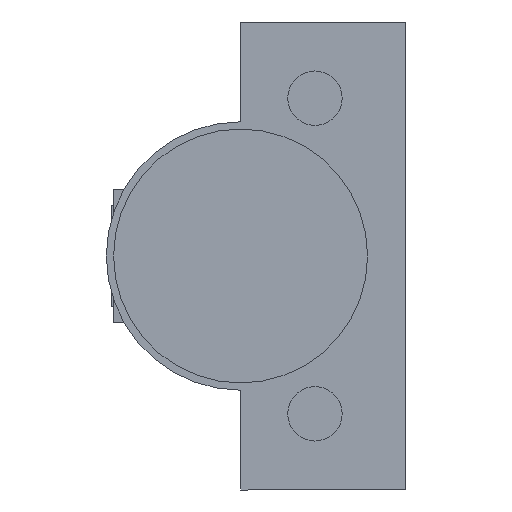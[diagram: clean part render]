
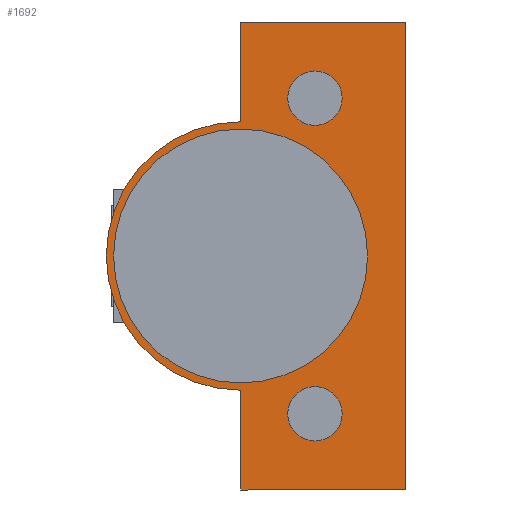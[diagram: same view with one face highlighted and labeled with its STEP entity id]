
A CAD part, front view. The second image highlights one B-rep face of the part: STEP entity #1692.
In plain terms, the highlighted planar face has unit normal (0, -1, 0).
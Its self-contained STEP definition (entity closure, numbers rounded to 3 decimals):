
#17 = CARTESIAN_POINT ( 'NONE',  ( 31.75, 0., 21.75 ) ) ;
#20 = DIRECTION ( 'NONE',  ( 0., 1., 0. ) ) ;
#26 = DIRECTION ( 'NONE',  ( -1., 0., 0. ) ) ;
#43 = CARTESIAN_POINT ( 'NONE',  ( 21.5, 0., 0. ) ) ;
#47 = DIRECTION ( 'NONE',  ( 0., 1., 0. ) ) ;
#48 = DIRECTION ( 'NONE',  ( -1., 0., 0. ) ) ;
#64 = DIRECTION ( 'NONE',  ( 0., -1., 0. ) ) ;
#65 = DIRECTION ( 'NONE',  ( -1., 0., 0. ) ) ;
#71 = CARTESIAN_POINT ( 'NONE',  ( 21.5, 0., 0. ) ) ;
#82 = DIRECTION ( 'NONE',  ( 1., 0., 0. ) ) ;
#84 = CARTESIAN_POINT ( 'NONE',  ( 44.25, 0., 32.25 ) ) ;
#96 = CARTESIAN_POINT ( 'NONE',  ( 31.75, 0., 21.75 ) ) ;
#133 = DIRECTION ( 'NONE',  ( 1., 0., 0. ) ) ;
#134 = CARTESIAN_POINT ( 'NONE',  ( 44.25, 0., -32.25 ) ) ;
#136 = DIRECTION ( 'NONE',  ( -1., 0., 0. ) ) ;
#137 = DIRECTION ( 'NONE',  ( 0., 1., 0. ) ) ;
#142 = DIRECTION ( 'NONE',  ( 0., -1., 0. ) ) ;
#143 = DIRECTION ( 'NONE',  ( -1., 0., 0. ) ) ;
#148 = CARTESIAN_POINT ( 'NONE',  ( 21.5, 0., 0. ) ) ;
#159 = DIRECTION ( 'NONE',  ( 0., 1., 0. ) ) ;
#160 = DIRECTION ( 'NONE',  ( -1., 0., 0. ) ) ;
#179 = CARTESIAN_POINT ( 'NONE',  ( 31.75, 0., -21.75 ) ) ;
#248 = CARTESIAN_POINT ( 'NONE',  ( 21.5, 0., 32.25 ) ) ;
#251 = CARTESIAN_POINT ( 'NONE',  ( 39., 0., 0. ) ) ;
#253 = CARTESIAN_POINT ( 'NONE',  ( 21.5, 0., -32.25 ) ) ;
#255 = CARTESIAN_POINT ( 'NONE',  ( 28., 0., 21.75 ) ) ;
#260 = CARTESIAN_POINT ( 'NONE',  ( 44.25, 0., 32.25 ) ) ;
#273 = CARTESIAN_POINT ( 'NONE',  ( 21.5, 0., 18.5 ) ) ;
#368 = PLANE ( 'NONE',  #1736 ) ;
#401 = DIRECTION ( 'NONE',  ( -1., 0., 0. ) ) ;
#402 = DIRECTION ( 'NONE',  ( 0., 1., 0. ) ) ;
#404 = CARTESIAN_POINT ( 'NONE',  ( 21.5, 0., 0. ) ) ;
#511 = VERTEX_POINT ( 'NONE', #1158 ) ;
#529 = CARTESIAN_POINT ( 'NONE',  ( 35.5, 0., 21.75 ) ) ;
#542 = VERTEX_POINT ( 'NONE', #712 ) ;
#563 = CARTESIAN_POINT ( 'NONE',  ( 21.5, 0., -31. ) ) ;
#573 = CARTESIAN_POINT ( 'NONE',  ( 4., 0., 0. ) ) ;
#578 = CARTESIAN_POINT ( 'NONE',  ( 44.25, 0., 32.25 ) ) ;
#581 = DIRECTION ( 'NONE',  ( 0., 0., 1. ) ) ;
#585 = CARTESIAN_POINT ( 'NONE',  ( 44.25, 0., -32.25 ) ) ;
#639 = VERTEX_POINT ( 'NONE', #716 ) ;
#662 = VERTEX_POINT ( 'NONE', #573 ) ;
#679 = CARTESIAN_POINT ( 'NONE',  ( 31.75, 0., -21.75 ) ) ;
#680 = DIRECTION ( 'NONE',  ( 0., 1., 0. ) ) ;
#683 = DIRECTION ( 'NONE',  ( 0., 0., -1. ) ) ;
#685 = DIRECTION ( 'NONE',  ( 0., 0., 1. ) ) ;
#686 = DIRECTION ( 'NONE',  ( -1., 0., 0. ) ) ;
#693 = VERTEX_POINT ( 'NONE', #529 ) ;
#712 = CARTESIAN_POINT ( 'NONE',  ( 35.5, 0., -21.75 ) ) ;
#716 = CARTESIAN_POINT ( 'NONE',  ( 21.5, 0., -18.5 ) ) ;
#721 = VERTEX_POINT ( 'NONE', #585 ) ;
#728 = CARTESIAN_POINT ( 'NONE',  ( 21.5, 0., 18.5 ) ) ;
#758 = EDGE_CURVE ( 'NONE', #542, #511, #1258, .T. ) ;
#765 = EDGE_CURVE ( 'NONE', #1167, #639, #1252, .T. ) ;
#766 = EDGE_CURVE ( 'NONE', #1164, #721, #1249, .T. ) ;
#789 = EDGE_CURVE ( 'NONE', #1174, #1190, #1208, .T. ) ;
#815 = EDGE_CURVE ( 'NONE', #1169, #693, #1722, .T. ) ;
#836 = CIRCLE ( 'NONE', #1774, 18.5 ) ;
#841 = LINE ( 'NONE', #134, #862 ) ;
#843 = CIRCLE ( 'NONE', #1757, 17.5 ) ;
#859 = LINE ( 'NONE', #84, #860 ) ;
#860 = VECTOR ( 'NONE', #82, 1000. ) ;
#862 = VECTOR ( 'NONE', #133, 1000. ) ;
#883 = CIRCLE ( 'NONE', #1799, 3.75 ) ;
#929 = CIRCLE ( 'NONE', #1815, 17.5 ) ;
#937 = EDGE_CURVE ( 'NONE', #639, #1174, #836, .T. ) ;
#958 = CIRCLE ( 'NONE', #1802, 3.75 ) ;
#984 = EDGE_CURVE ( 'NONE', #662, #1165, #843, .T. ) ;
#1025 = FACE_OUTER_BOUND ( 'NONE', #1451, .T. ) ;
#1026 = FACE_BOUND ( 'NONE', #1477, .T. ) ;
#1032 = FACE_BOUND ( 'NONE', #1467, .T. ) ;
#1034 = FACE_BOUND ( 'NONE', #1470, .T. ) ;
#1073 = EDGE_CURVE ( 'NONE', #1190, #1164, #859, .T. ) ;
#1090 = EDGE_CURVE ( 'NONE', #693, #1169, #883, .T. ) ;
#1091 = EDGE_CURVE ( 'NONE', #1167, #721, #841, .T. ) ;
#1114 = EDGE_CURVE ( 'NONE', #1165, #662, #929, .T. ) ;
#1120 = AXIS2_PLACEMENT_3D ( 'NONE', #679, #680, #686 ) ;
#1131 = EDGE_CURVE ( 'NONE', #511, #542, #958, .T. ) ;
#1158 = CARTESIAN_POINT ( 'NONE',  ( 28., 0., -21.75 ) ) ;
#1164 = VERTEX_POINT ( 'NONE', #260 ) ;
#1165 = VERTEX_POINT ( 'NONE', #251 ) ;
#1167 = VERTEX_POINT ( 'NONE', #253 ) ;
#1169 = VERTEX_POINT ( 'NONE', #255 ) ;
#1174 = VERTEX_POINT ( 'NONE', #273 ) ;
#1190 = VERTEX_POINT ( 'NONE', #248 ) ;
#1207 = VECTOR ( 'NONE', #581, 1000. ) ;
#1208 = LINE ( 'NONE', #728, #1207 ) ;
#1248 = VECTOR ( 'NONE', #683, 1000. ) ;
#1249 = LINE ( 'NONE', #578, #1248 ) ;
#1250 = VECTOR ( 'NONE', #685, 1000. ) ;
#1252 = LINE ( 'NONE', #563, #1250 ) ;
#1258 = CIRCLE ( 'NONE', #1120, 3.75 ) ;
#1451 = EDGE_LOOP ( 'NONE', ( #1647, #1646, #1645, #1644, #1643, #1642 ) ) ;
#1467 = EDGE_LOOP ( 'NONE', ( #1639, #1638 ) ) ;
#1470 = EDGE_LOOP ( 'NONE', ( #1637, #1636 ) ) ;
#1477 = EDGE_LOOP ( 'NONE', ( #1641, #1640 ) ) ;
#1636 = ORIENTED_EDGE ( 'NONE', *, *, #1114, .F. ) ;
#1637 = ORIENTED_EDGE ( 'NONE', *, *, #984, .F. ) ;
#1638 = ORIENTED_EDGE ( 'NONE', *, *, #1090, .T. ) ;
#1639 = ORIENTED_EDGE ( 'NONE', *, *, #815, .T. ) ;
#1640 = ORIENTED_EDGE ( 'NONE', *, *, #758, .T. ) ;
#1641 = ORIENTED_EDGE ( 'NONE', *, *, #1131, .T. ) ;
#1642 = ORIENTED_EDGE ( 'NONE', *, *, #937, .F. ) ;
#1643 = ORIENTED_EDGE ( 'NONE', *, *, #789, .F. ) ;
#1644 = ORIENTED_EDGE ( 'NONE', *, *, #1073, .F. ) ;
#1645 = ORIENTED_EDGE ( 'NONE', *, *, #766, .F. ) ;
#1646 = ORIENTED_EDGE ( 'NONE', *, *, #1091, .T. ) ;
#1647 = ORIENTED_EDGE ( 'NONE', *, *, #765, .F. ) ;
#1692 = ADVANCED_FACE ( 'NONE', ( #1025, #1026, #1032, #1034 ), #368, .F. ) ;
#1722 = CIRCLE ( 'NONE', #1762, 3.75 ) ;
#1736 = AXIS2_PLACEMENT_3D ( 'NONE', #404, #402, #401 ) ;
#1757 = AXIS2_PLACEMENT_3D ( 'NONE', #43, #64, #65 ) ;
#1762 = AXIS2_PLACEMENT_3D ( 'NONE', #17, #20, #26 ) ;
#1774 = AXIS2_PLACEMENT_3D ( 'NONE', #71, #47, #48 ) ;
#1799 = AXIS2_PLACEMENT_3D ( 'NONE', #96, #137, #136 ) ;
#1802 = AXIS2_PLACEMENT_3D ( 'NONE', #179, #159, #160 ) ;
#1815 = AXIS2_PLACEMENT_3D ( 'NONE', #148, #142, #143 ) ;
